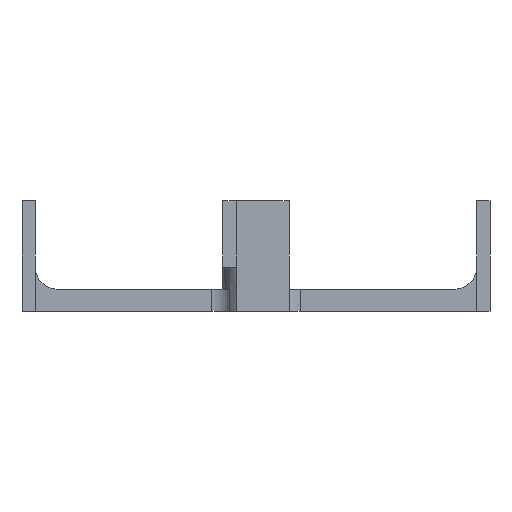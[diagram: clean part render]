
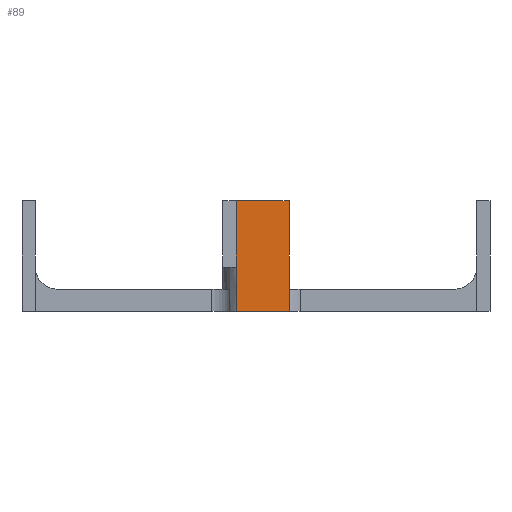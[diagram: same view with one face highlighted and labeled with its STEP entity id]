
A CAD part, front view. The second image highlights one B-rep face of the part: STEP entity #89.
In plain terms, the highlighted planar face has unit normal (0, -1, 0).
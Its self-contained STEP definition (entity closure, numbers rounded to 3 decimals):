
#89=ADVANCED_FACE('',(#152),#153,.T.);
#152=FACE_OUTER_BOUND('',#252,.T.);
#153=PLANE('',#253);
#252=EDGE_LOOP('',(#434,#435,#436,#437));
#253=AXIS2_PLACEMENT_3D('',#438,#439,#440);
#434=ORIENTED_EDGE('',*,*,#784,.T.);
#435=ORIENTED_EDGE('',*,*,#785,.F.);
#436=ORIENTED_EDGE('',*,*,#786,.T.);
#437=ORIENTED_EDGE('',*,*,#782,.T.);
#438=CARTESIAN_POINT('',(106.358,-51.909,0.0));
#439=DIRECTION('',(0.0,-1.0,0.0));
#440=DIRECTION('',(1.0,0.0,0.0));
#782=EDGE_CURVE('',#950,#948,#951,.T.);
#784=EDGE_CURVE('',#948,#953,#954,.T.);
#785=EDGE_CURVE('',#955,#953,#956,.T.);
#786=EDGE_CURVE('',#955,#950,#957,.T.);
#948=VERTEX_POINT('',#1208);
#950=VERTEX_POINT('',#1211);
#951=LINE('',#1212,#1213);
#953=VERTEX_POINT('',#1216);
#954=LINE('',#1217,#1218);
#955=VERTEX_POINT('',#1219);
#956=LINE('',#1220,#1221);
#957=LINE('',#1222,#1223);
#1208=CARTESIAN_POINT('',(112.358,-51.909,25.0));
#1211=CARTESIAN_POINT('',(112.358,-51.909,0.0));
#1212=CARTESIAN_POINT('',(112.358,-51.909,0.0));
#1213=VECTOR('',#1487,1.0);
#1216=CARTESIAN_POINT('',(100.358,-51.909,25.0));
#1217=CARTESIAN_POINT('',(100.358,-51.909,25.0));
#1218=VECTOR('',#1489,1.0);
#1219=CARTESIAN_POINT('',(100.358,-51.909,0.0));
#1220=CARTESIAN_POINT('',(100.358,-51.909,0.0));
#1221=VECTOR('',#1490,1.0);
#1222=CARTESIAN_POINT('',(100.358,-51.909,0.0));
#1223=VECTOR('',#1491,1.0);
#1487=DIRECTION('',(0.0,0.0,1.0));
#1489=DIRECTION('',(-1.0,0.0,0.0));
#1490=DIRECTION('',(0.0,0.0,1.0));
#1491=DIRECTION('',(1.0,0.0,0.0));
